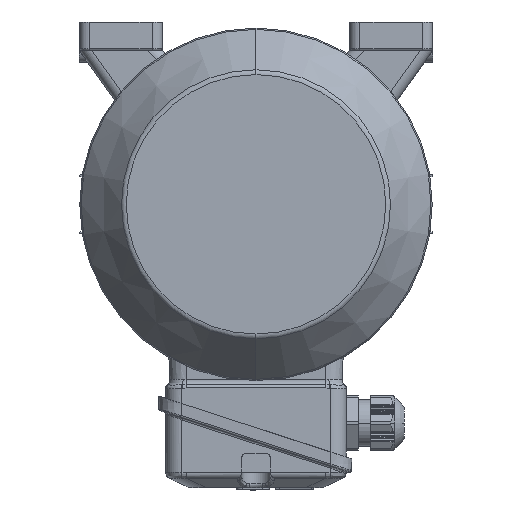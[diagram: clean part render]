
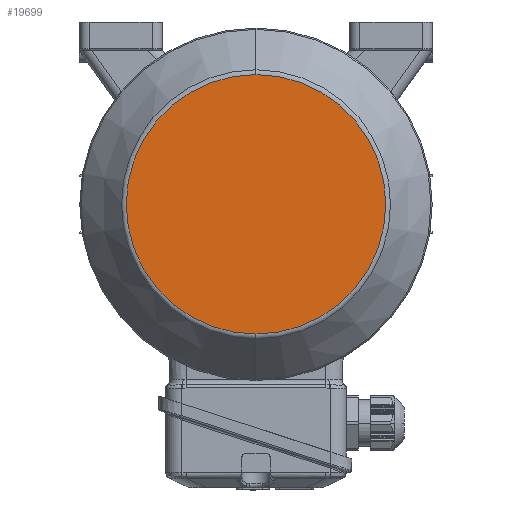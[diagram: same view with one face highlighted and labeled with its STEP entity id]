
A CAD part, left-side view. The second image highlights one B-rep face of the part: STEP entity #19699.
In plain terms, the highlighted planar face has unit normal (-1, 0, 0).
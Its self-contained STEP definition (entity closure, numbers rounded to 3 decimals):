
#48 = CARTESIAN_POINT ( 'NONE',  ( -164., 0., 0. ) ) ;
#1044 = FACE_OUTER_BOUND ( 'NONE', #32370, .T. ) ;
#2284 = CARTESIAN_POINT ( 'NONE',  ( -164., 0., 0. ) ) ;
#2373 = CARTESIAN_POINT ( 'NONE',  ( -164., 0., -64.037 ) ) ;
#5756 = AXIS2_PLACEMENT_3D ( 'NONE', #33730, #26083, #12341 ) ;
#10662 = ORIENTED_EDGE ( 'NONE', *, *, #44867, .F. ) ;
#12012 = ORIENTED_EDGE ( 'NONE', *, *, #24354, .F. ) ;
#12341 = DIRECTION ( 'NONE',  ( 0., 1., 0. ) ) ;
#15642 = CARTESIAN_POINT ( 'NONE',  ( -164., 0., 64.037 ) ) ;
#17087 = AXIS2_PLACEMENT_3D ( 'NONE', #48, #39279, #39128 ) ;
#19699 = ADVANCED_FACE ( 'NONE', ( #1044 ), #44194, .T. ) ;
#21303 = CIRCLE ( 'NONE', #17087, 64.037 ) ;
#23917 = DIRECTION ( 'NONE',  ( 0., 0., -1. ) ) ;
#24354 = EDGE_CURVE ( 'NONE', #33558, #46163, #29704, .T. ) ;
#25390 = AXIS2_PLACEMENT_3D ( 'NONE', #2284, #45126, #23917 ) ;
#26083 = DIRECTION ( 'NONE',  ( -1., 0., 0. ) ) ;
#29704 = CIRCLE ( 'NONE', #25390, 64.037 ) ;
#32370 = EDGE_LOOP ( 'NONE', ( #10662, #12012 ) ) ;
#33558 = VERTEX_POINT ( 'NONE', #15642 ) ;
#33730 = CARTESIAN_POINT ( 'NONE',  ( -164., 0., -64.037 ) ) ;
#39128 = DIRECTION ( 'NONE',  ( 0., 0., -1. ) ) ;
#39279 = DIRECTION ( 'NONE',  ( 1., 0., 0. ) ) ;
#44194 = PLANE ( 'NONE',  #5756 ) ;
#44867 = EDGE_CURVE ( 'NONE', #46163, #33558, #21303, .T. ) ;
#45126 = DIRECTION ( 'NONE',  ( 1., 0., 0. ) ) ;
#46163 = VERTEX_POINT ( 'NONE', #2373 ) ;
